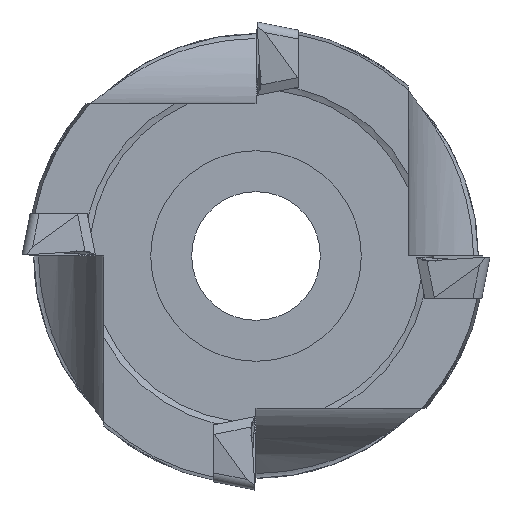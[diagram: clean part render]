
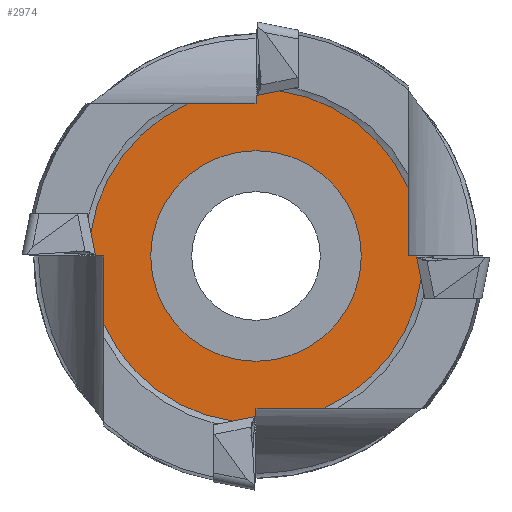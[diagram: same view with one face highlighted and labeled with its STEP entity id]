
A CAD part, front view. The second image highlights one B-rep face of the part: STEP entity #2974.
In plain terms, the highlighted planar face has unit normal (0, -1, 0).
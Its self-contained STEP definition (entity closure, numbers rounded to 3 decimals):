
#104=FACE_BOUND('',#450,.T.);
#199=PLANE('',#3257);
#291=FACE_OUTER_BOUND('',#449,.T.);
#449=EDGE_LOOP('',(#2115,#2116,#2117,#2118,#2119,#2120,#2121,#2122,#2123,
#2124,#2125,#2126,#2127,#2128,#2129,#2130));
#450=EDGE_LOOP('',(#2131,#2132));
#638=LINE('',#4489,#846);
#650=LINE('',#4536,#858);
#655=LINE('',#4575,#863);
#659=LINE('',#4587,#867);
#671=LINE('',#4634,#879);
#676=LINE('',#4673,#884);
#680=LINE('',#4685,#888);
#692=LINE('',#4732,#900);
#697=LINE('',#4771,#905);
#698=LINE('',#4776,#906);
#699=LINE('',#4778,#907);
#700=LINE('',#4780,#908);
#846=VECTOR('',#3523,10.);
#858=VECTOR('',#3559,10.);
#863=VECTOR('',#3570,10.);
#867=VECTOR('',#3578,10.);
#879=VECTOR('',#3614,10.);
#884=VECTOR('',#3625,10.);
#888=VECTOR('',#3633,10.);
#900=VECTOR('',#3669,10.);
#905=VECTOR('',#3680,10.);
#906=VECTOR('',#3685,10.);
#907=VECTOR('',#3686,10.);
#908=VECTOR('',#3687,10.);
#1064=CIRCLE('',#3258,14.25);
#1065=CIRCLE('',#3259,14.25);
#1066=CIRCLE('',#3260,14.25);
#1067=CIRCLE('',#3261,14.25);
#1068=CIRCLE('',#3262,9.);
#1069=CIRCLE('',#3263,9.);
#1195=VERTEX_POINT('',#4486);
#1196=VERTEX_POINT('',#4488);
#1209=VERTEX_POINT('',#4534);
#1210=VERTEX_POINT('',#4535);
#1221=VERTEX_POINT('',#4584);
#1222=VERTEX_POINT('',#4586);
#1235=VERTEX_POINT('',#4632);
#1236=VERTEX_POINT('',#4633);
#1247=VERTEX_POINT('',#4682);
#1248=VERTEX_POINT('',#4684);
#1261=VERTEX_POINT('',#4730);
#1262=VERTEX_POINT('',#4731);
#1269=VERTEX_POINT('',#4773);
#1270=VERTEX_POINT('',#4775);
#1271=VERTEX_POINT('',#4777);
#1272=VERTEX_POINT('',#4779);
#1273=VERTEX_POINT('',#4784);
#1274=VERTEX_POINT('',#4785);
#1498=EDGE_CURVE('',#1196,#1195,#638,.T.);
#1518=EDGE_CURVE('',#1209,#1210,#650,.T.);
#1528=EDGE_CURVE('',#1195,#1209,#655,.T.);
#1533=EDGE_CURVE('',#1222,#1221,#659,.T.);
#1553=EDGE_CURVE('',#1235,#1236,#671,.T.);
#1563=EDGE_CURVE('',#1221,#1235,#676,.T.);
#1568=EDGE_CURVE('',#1248,#1247,#680,.T.);
#1588=EDGE_CURVE('',#1261,#1262,#692,.T.);
#1598=EDGE_CURVE('',#1247,#1261,#697,.T.);
#1599=EDGE_CURVE('',#1210,#1269,#1064,.T.);
#1600=EDGE_CURVE('',#1269,#1270,#698,.T.);
#1601=EDGE_CURVE('',#1270,#1271,#699,.T.);
#1602=EDGE_CURVE('',#1271,#1272,#700,.T.);
#1603=EDGE_CURVE('',#1272,#1248,#1065,.T.);
#1604=EDGE_CURVE('',#1262,#1222,#1066,.T.);
#1605=EDGE_CURVE('',#1236,#1196,#1067,.T.);
#1606=EDGE_CURVE('',#1273,#1274,#1068,.T.);
#1607=EDGE_CURVE('',#1274,#1273,#1069,.T.);
#2115=ORIENTED_EDGE('',*,*,#1498,.T.);
#2116=ORIENTED_EDGE('',*,*,#1528,.T.);
#2117=ORIENTED_EDGE('',*,*,#1518,.T.);
#2118=ORIENTED_EDGE('',*,*,#1599,.T.);
#2119=ORIENTED_EDGE('',*,*,#1600,.T.);
#2120=ORIENTED_EDGE('',*,*,#1601,.T.);
#2121=ORIENTED_EDGE('',*,*,#1602,.T.);
#2122=ORIENTED_EDGE('',*,*,#1603,.T.);
#2123=ORIENTED_EDGE('',*,*,#1568,.T.);
#2124=ORIENTED_EDGE('',*,*,#1598,.T.);
#2125=ORIENTED_EDGE('',*,*,#1588,.T.);
#2126=ORIENTED_EDGE('',*,*,#1604,.T.);
#2127=ORIENTED_EDGE('',*,*,#1533,.T.);
#2128=ORIENTED_EDGE('',*,*,#1563,.T.);
#2129=ORIENTED_EDGE('',*,*,#1553,.T.);
#2130=ORIENTED_EDGE('',*,*,#1605,.T.);
#2131=ORIENTED_EDGE('',*,*,#1606,.F.);
#2132=ORIENTED_EDGE('',*,*,#1607,.F.);
#2974=ADVANCED_FACE('',(#291,#104),#199,.T.);
#3257=AXIS2_PLACEMENT_3D('',#4772,#3681,#3682);
#3258=AXIS2_PLACEMENT_3D('',#4774,#3683,#3684);
#3259=AXIS2_PLACEMENT_3D('',#4781,#3688,#3689);
#3260=AXIS2_PLACEMENT_3D('',#4782,#3690,#3691);
#3261=AXIS2_PLACEMENT_3D('',#4783,#3692,#3693);
#3262=AXIS2_PLACEMENT_3D('',#4786,#3694,#3695);
#3263=AXIS2_PLACEMENT_3D('',#4787,#3696,#3697);
#3523=DIRECTION('',(0.982,0.,0.191));
#3559=DIRECTION('',(1.,0.,0.));
#3570=DIRECTION('',(0.,0.,1.));
#3578=DIRECTION('',(0.191,0.,-0.982));
#3614=DIRECTION('',(0.,0.,-1.));
#3625=DIRECTION('',(1.,0.,0.));
#3633=DIRECTION('',(-0.982,0.,-0.191));
#3669=DIRECTION('',(-1.,0.,0.));
#3680=DIRECTION('',(0.,0.,-1.));
#3681=DIRECTION('center_axis',(0.,-1.,0.));
#3682=DIRECTION('ref_axis',(0.,0.,-1.));
#3683=DIRECTION('center_axis',(0.,-1.,0.));
#3684=DIRECTION('ref_axis',(1.,0.,0.));
#3685=DIRECTION('',(-0.191,0.,0.982));
#3686=DIRECTION('',(-1.,0.,0.));
#3687=DIRECTION('',(0.,0.,1.));
#3688=DIRECTION('center_axis',(0.,-1.,0.));
#3689=DIRECTION('ref_axis',(1.,0.,0.));
#3690=DIRECTION('center_axis',(0.,-1.,0.));
#3691=DIRECTION('ref_axis',(1.,0.,0.));
#3692=DIRECTION('center_axis',(0.,-1.,0.));
#3693=DIRECTION('ref_axis',(1.,0.,0.));
#3694=DIRECTION('center_axis',(0.,-1.,0.));
#3695=DIRECTION('ref_axis',(1.,0.,0.));
#3696=DIRECTION('center_axis',(0.,-1.,0.));
#3697=DIRECTION('ref_axis',(1.,0.,0.));
#4486=CARTESIAN_POINT('',(0.,-14.5,-13.722));
#4488=CARTESIAN_POINT('',(-1.993,-14.5,-14.11));
#4489=CARTESIAN_POINT('',(4.886,-14.5,-12.773));
#4534=CARTESIAN_POINT('',(0.,-14.5,-13.));
#4535=CARTESIAN_POINT('',(5.836,-14.5,-13.));
#4536=CARTESIAN_POINT('',(4.5,-14.5,-13.));
#4575=CARTESIAN_POINT('',(0.,-14.5,-8.125));
#4584=CARTESIAN_POINT('',(-13.722,-14.5,0.));
#4586=CARTESIAN_POINT('',(-14.11,-14.5,1.993));
#4587=CARTESIAN_POINT('',(-13.452,-14.5,-1.393));
#4632=CARTESIAN_POINT('',(-13.,-14.5,0.));
#4633=CARTESIAN_POINT('',(-13.,-14.5,-5.836));
#4634=CARTESIAN_POINT('',(-13.,-14.5,0.));
#4673=CARTESIAN_POINT('',(-3.625,-14.5,0.));
#4682=CARTESIAN_POINT('',(0.,-14.5,13.722));
#4684=CARTESIAN_POINT('',(1.993,-14.5,14.11));
#4685=CARTESIAN_POINT('',(3.787,-14.5,14.459));
#4730=CARTESIAN_POINT('',(0.,-14.5,13.));
#4731=CARTESIAN_POINT('',(-5.836,-14.5,13.));
#4732=CARTESIAN_POINT('',(4.5,-14.5,13.));
#4771=CARTESIAN_POINT('',(0.,-14.5,8.125));
#4772=CARTESIAN_POINT('Origin',(9.,-14.5,0.));
#4773=CARTESIAN_POINT('',(14.11,-14.5,-1.993));
#4774=CARTESIAN_POINT('Origin',(0.,-14.5,0.));
#4775=CARTESIAN_POINT('',(13.722,-14.5,0.));
#4776=CARTESIAN_POINT('',(13.779,-14.5,-0.294));
#4777=CARTESIAN_POINT('',(13.,-14.5,0.));
#4778=CARTESIAN_POINT('',(12.625,-14.5,0.));
#4779=CARTESIAN_POINT('',(13.,-14.5,5.836));
#4780=CARTESIAN_POINT('',(13.,-14.5,0.));
#4781=CARTESIAN_POINT('Origin',(0.,-14.5,0.));
#4782=CARTESIAN_POINT('Origin',(0.,-14.5,0.));
#4783=CARTESIAN_POINT('Origin',(0.,-14.5,0.));
#4784=CARTESIAN_POINT('',(9.,-14.5,0.));
#4785=CARTESIAN_POINT('',(-9.,-14.5,0.));
#4786=CARTESIAN_POINT('Origin',(0.,-14.5,0.));
#4787=CARTESIAN_POINT('Origin',(0.,-14.5,0.));
